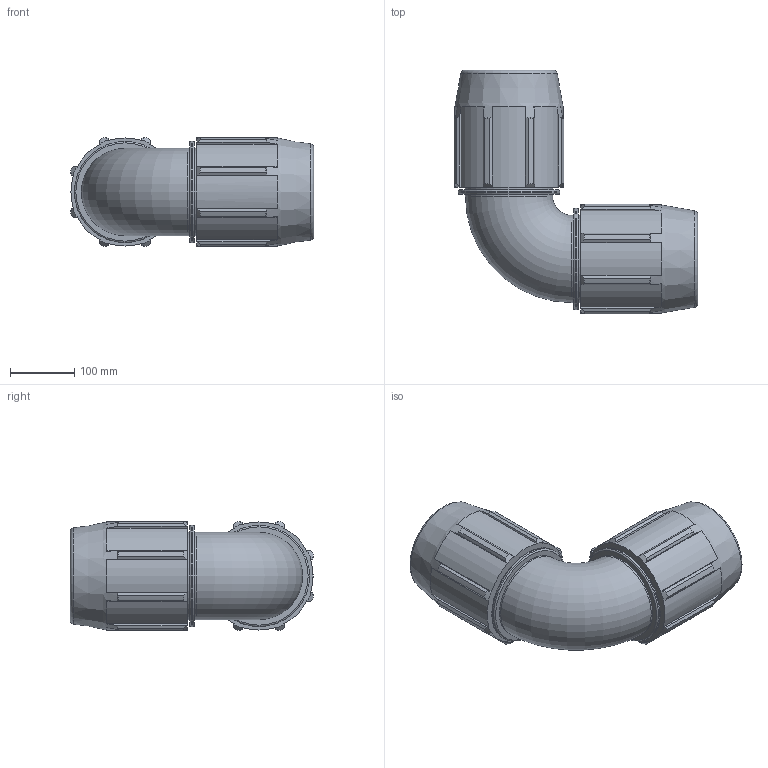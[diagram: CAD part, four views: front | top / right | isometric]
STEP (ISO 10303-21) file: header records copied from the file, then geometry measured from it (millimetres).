
FILE_DESCRIPTION(/* description */ ('PLASSON 90° ELBOW 4'''' - 4'''''),/* implementation_level */ '2;1');
FILE_NAME(/* name */ 'C:\Dropbox\KIMPROJECTS-Inventor 2019\99-16-3568-Processing Inch\ASTM Compression 2021\0705M0\0705M0040.ipt.stp',/* time_stamp */ '2021-08-26T12:32:03+03:00',/* author */ ('KIM'),/* organization */ (''),/* preprocessor_version */ 'ST-DEVELOPER v17.2',/* originating_system */ 'Autodesk Inventor 2019',/* authorisation */ '');
FILE_SCHEMA (('AUTOMOTIVE_DESIGN { 1 0 10303 214 3 1 1 }'));
Length unit declared in the file: inch
Products named in the file (1): 0705M0040
Bounding box: 379.08 x 379.08 x 170.4 mm (x, y, z)
Volume: 5345567 mm3; surface area: 529656 mm2
Topology: 1 solids, 1 shells, 162 faces, 477 edges, 327 vertices
Faces by surface type: plane 76, cylinder 40, cone 38, torus 8
Full cylindrical faces by diameter (mm): 114.1 x2, 135.827 x4, 157.559 x2
Entity records: 5621 total; most frequent: CARTESIAN_POINT 1159, ORIENTED_EDGE 954, DIRECTION 882, EDGE_CURVE 477, AXIS2_PLACEMENT_3D 338, VERTEX_POINT 327, LINE 206, VECTOR 206
